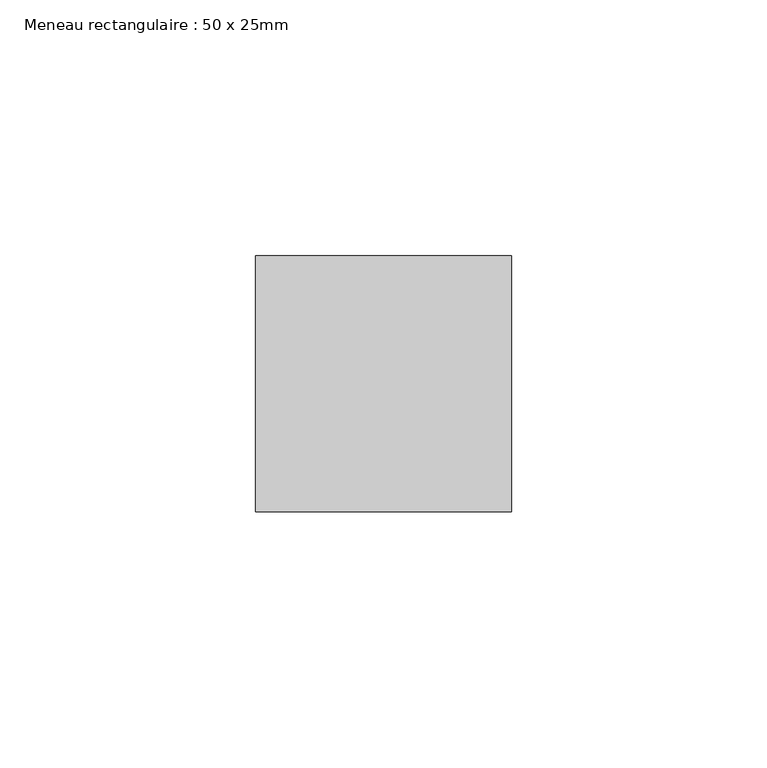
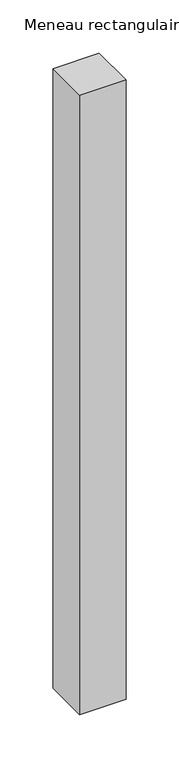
"""IFC4 building model written with IfcOpenShell, lengths in millimetres: member geometry, Meneau rectangulaire : 50 x 25mm."""

from ifc_helpers import new_model, si_unit, frame, origin, place, context, project, spatial, polyline, outline, extrude, source, transform, mapped, element, save


def meneau_rectangulaire_50_x_25mm_b2340698(model_context):
    return source(origin(), model_context, "Body", "SweptSolid", [
        extrude(outline(polyline([(25.0, 0.0), (25.0, -50.0), (-25.0, -50.0), (-25.0, 0.0), (25.0, 0.0)])), frame((0.0, 0.0, -710.0), z_axis=(0.0, 0.0, 1.0), x_axis=(1.0, 0.0, 0.0)), (0.0, 0.0, 1.0), 710.0),
    ])


if __name__ == "__main__":
    model = new_model("IFC4")
    model_context = context("Model", 3, world=origin())
    ifc_project = project(units=[si_unit("LENGTHUNIT", "METRE", prefix="MILLI")], contexts=[model_context])
    site = spatial("IfcSite", under=ifc_project)
    building = spatial("IfcBuilding", under=site)
    placement = place(None, origin())
    meneau_rectangulaire_50_x_25mm_shape = meneau_rectangulaire_50_x_25mm_b2340698(model_context)
    element("IfcMember", 1, ObjectType="Meneau rectangulaire : 50 x 25mm", at=placement, inside=building, context=model_context, shape_type="MappedRepresentation", body=[
        mapped(meneau_rectangulaire_50_x_25mm_shape, transform((0.0, 0.0, 0.0), x_axis=(1.0, 0.0, 0.0), y_axis=(0.0, 1.0, 0.0), z_axis=(0.0, 0.0, 1.0))),
    ])
    save(model, "model.ifc")
